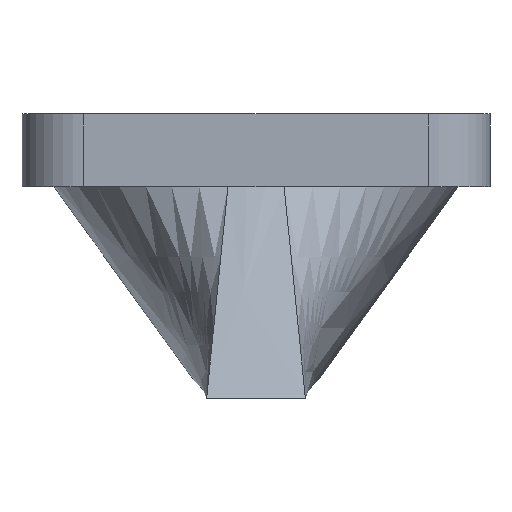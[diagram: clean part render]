
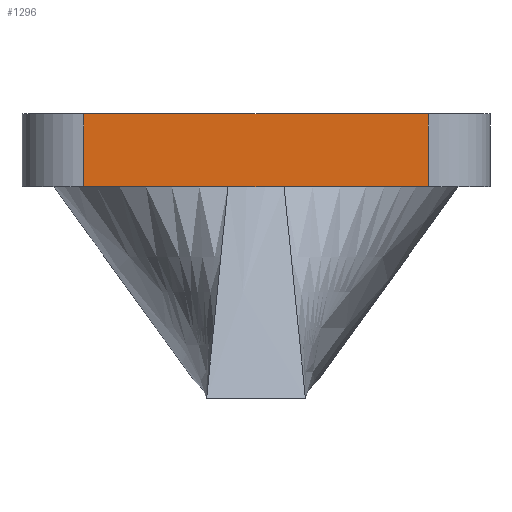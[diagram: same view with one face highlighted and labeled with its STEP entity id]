
A CAD part, front view. The second image highlights one B-rep face of the part: STEP entity #1296.
In plain terms, the highlighted planar face has unit normal (0, -1, 0).
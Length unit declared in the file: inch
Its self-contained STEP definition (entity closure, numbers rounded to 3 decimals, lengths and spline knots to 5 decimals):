
#78 = ORIENTED_EDGE ( 'NONE', *, *, #2409, .T. ) ;
#139 = LINE ( 'NONE', #1435, #1776 ) ;
#185 = PLANE ( 'NONE',  #1285 ) ;
#285 = VERTEX_POINT ( 'NONE', #4546 ) ;
#360 = VERTEX_POINT ( 'NONE', #4201 ) ;
#392 = LINE ( 'NONE', #5529, #4509 ) ;
#584 = DIRECTION ( 'NONE',  ( 0., 0., 1. ) ) ;
#719 = DIRECTION ( 'NONE',  ( 0., 0., -1. ) ) ;
#745 = DIRECTION ( 'NONE',  ( 0., -1., 0. ) ) ;
#1248 = VECTOR ( 'NONE', #4756, 39.37008 ) ;
#1285 = AXIS2_PLACEMENT_3D ( 'NONE', #4090, #745, #719 ) ;
#1296 = ADVANCED_FACE ( 'NONE', ( #1911 ), #185, .T. ) ;
#1435 = CARTESIAN_POINT ( 'NONE',  ( 21.49177, -51.06727, 0. ) ) ;
#1461 = ORIENTED_EDGE ( 'NONE', *, *, #1653, .F. ) ;
#1545 = ORIENTED_EDGE ( 'NONE', *, *, #4378, .F. ) ;
#1653 = EDGE_CURVE ( 'NONE', #2851, #360, #392, .T. ) ;
#1690 = DIRECTION ( 'NONE',  ( 1., 0., 0. ) ) ;
#1727 = LINE ( 'NONE', #5116, #1248 ) ;
#1776 = VECTOR ( 'NONE', #584, 39.37008 ) ;
#1911 = FACE_OUTER_BOUND ( 'NONE', #4631, .T. ) ;
#1980 = EDGE_CURVE ( 'NONE', #2895, #285, #4348, .T. ) ;
#2194 = VECTOR ( 'NONE', #4749, 39.37008 ) ;
#2401 = CARTESIAN_POINT ( 'NONE',  ( 21.49177, -51.06727, 0. ) ) ;
#2409 = EDGE_CURVE ( 'NONE', #285, #360, #1727, .T. ) ;
#2626 = CARTESIAN_POINT ( 'NONE',  ( 0., -51.06727, 0. ) ) ;
#2851 = VERTEX_POINT ( 'NONE', #5336 ) ;
#2895 = VERTEX_POINT ( 'NONE', #2401 ) ;
#3313 = ORIENTED_EDGE ( 'NONE', *, *, #1980, .T. ) ;
#4090 = CARTESIAN_POINT ( 'NONE',  ( 0., -51.06727, 0. ) ) ;
#4201 = CARTESIAN_POINT ( 'NONE',  ( 22.71225, -51.06727, 0.25748 ) ) ;
#4348 = LINE ( 'NONE', #2626, #2194 ) ;
#4378 = EDGE_CURVE ( 'NONE', #2895, #2851, #139, .T. ) ;
#4509 = VECTOR ( 'NONE', #1690, 39.37008 ) ;
#4546 = CARTESIAN_POINT ( 'NONE',  ( 22.71225, -51.06727, 0. ) ) ;
#4631 = EDGE_LOOP ( 'NONE', ( #78, #1461, #1545, #3313 ) ) ;
#4749 = DIRECTION ( 'NONE',  ( 1., 0., 0. ) ) ;
#4756 = DIRECTION ( 'NONE',  ( 0., 0., 1. ) ) ;
#5116 = CARTESIAN_POINT ( 'NONE',  ( 22.71225, -51.06727, 0. ) ) ;
#5336 = CARTESIAN_POINT ( 'NONE',  ( 21.49177, -51.06727, 0.25748 ) ) ;
#5529 = CARTESIAN_POINT ( 'NONE',  ( 0., -51.06727, 0.25748 ) ) ;
